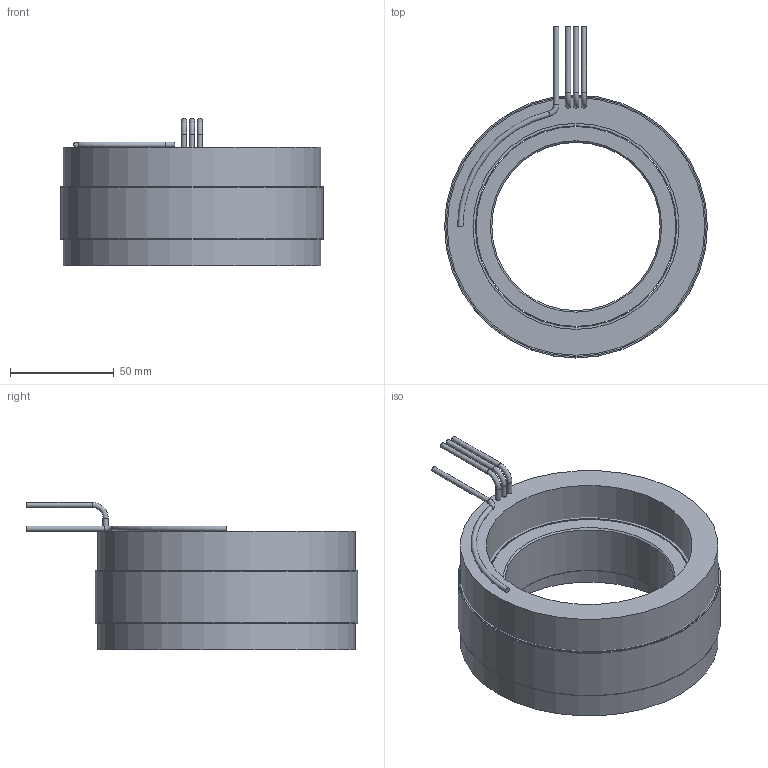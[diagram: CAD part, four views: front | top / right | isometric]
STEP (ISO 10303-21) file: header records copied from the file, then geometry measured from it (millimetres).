
FILE_DESCRIPTION (( 'STEP AP214' ), '1' );
FILE_NAME ('6100398-02.STEP', '2020-12-27T03:06:10', ( '' ), ( '' ), 'SwSTEP 2.0', 'SolidWorks 2016', '' );
FILE_SCHEMA (( 'AUTOMOTIVE_DESIGN' ));
Length unit declared in the file: inch
Products named in the file (10): 6100398-02; 4500563-XX_4500563-02; 4400106-00; 4450194-XX_4450194-02; 4250386-XX_4250386-02; COMP4500563-XX(COIL)_COMP4500563-02(COIL); 4600570-00; 4150184-XX_4150184-02
Assembly tree (10 placements, depth 4):
  6100398-02
    4250386-XX_4250386-02
      4150184-XX_4150184-02
    4500563-XX_4500563-02
      COMP4500563-XX(COIL)_COMP4500563-02(COIL)
      4450194-XX_4450194-02
        4450194-XX_4450194-02
        4400106-00
        4400106-00
        4600570-00  x2
Bounding box: 127 x 160.29 x 71.12 mm (x, y, z)
Volume: 441043.4 mm3; surface area: 138901.5 mm2
Topology: 8 solids, 8 shells, 47 faces, 74 edges, 46 vertices
Faces by surface type: cylinder 21, plane 19, torus 5, cone 2
Full cylindrical faces by diameter (mm): 2.54 x7, 81.28 x1, 96.52 x1, 97.282 x5, 99.568 x1, 124.46 x1, 125.73 x2, 127 x3
Entity records: 1305 total; most frequent: DIRECTION 202, CARTESIAN_POINT 143, AXIS2_PLACEMENT_3D 101, ORIENTED_EDGE 84, EDGE_LOOP 84, FACE_OUTER_BOUND 67, ADVANCED_FACE 43, EDGE_CURVE 42
